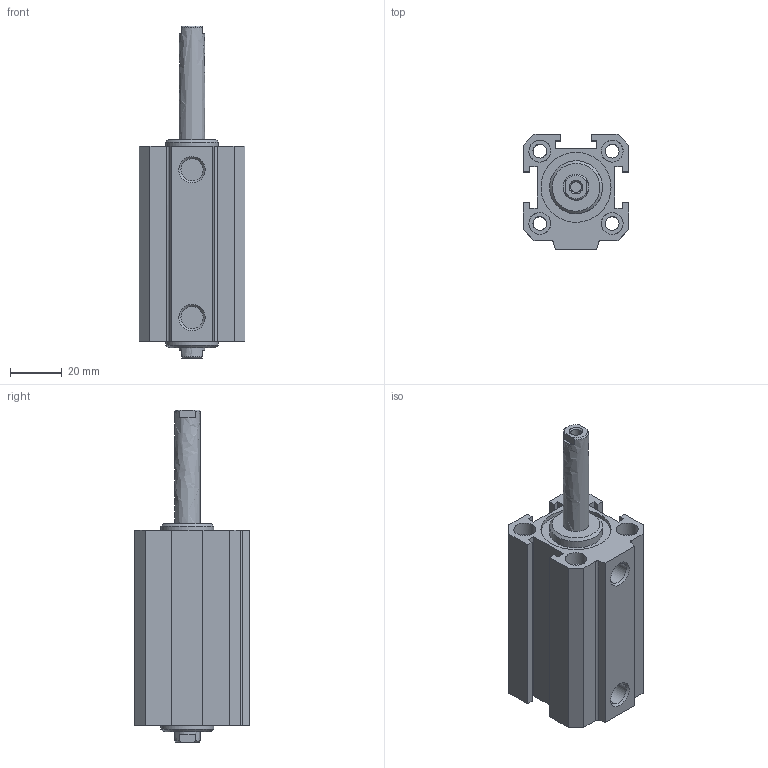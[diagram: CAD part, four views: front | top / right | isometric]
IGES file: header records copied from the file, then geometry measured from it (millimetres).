
Global section: file name: 1514_25_0040; native system: Autodesk Inventor 2014; preprocessor: unknown; author: A. Manieri; date: 20160824.112004; units: millimetre
Bounding box: 41 x 44.5 x 128.5 mm (x, y, z)
Volume: 89383.1 mm3; surface area: 37398.2 mm2
Topology: 2 solids, 2 shells, 106 faces, 280 edges, 198 vertices
Faces by surface type: bspline 106
